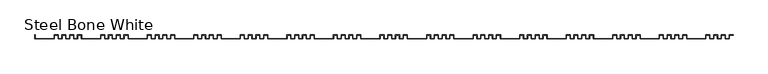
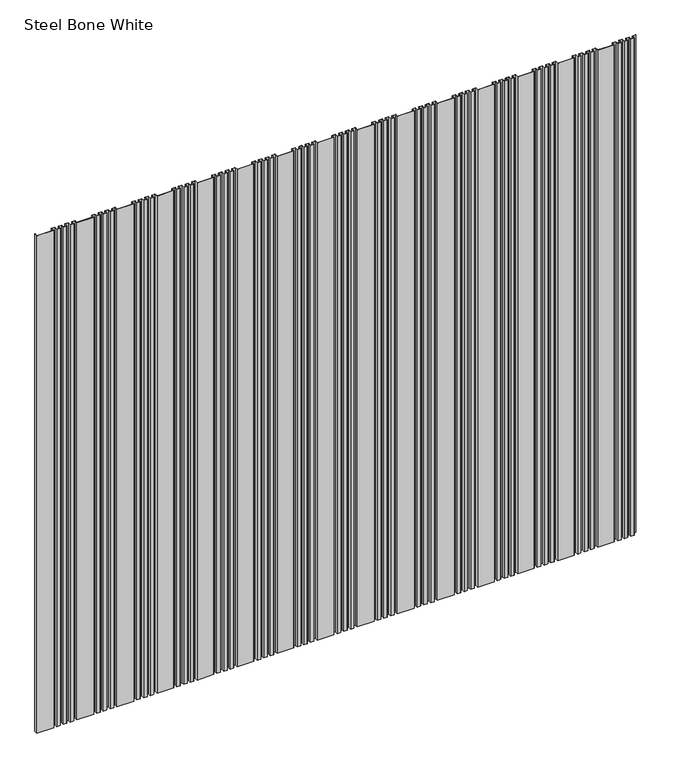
"""IFC4 building model written with IfcOpenShell, lengths in millimetres: proxy geometry, TitanTek VariPanel™ 4 Rib : Steel Bone White."""

from ifc_helpers import new_model, si_unit, origin, origin_with_axes, place, context, project, spatial, polyline, outline, extrude, source, transform, mapped, element, save


def steel_bone_white_7c3ab337(model_context):
    return source(origin(), model_context, "Body", "SweptSolid", [
        extrude(outline(polyline([(4546.6, -0.9921875), (4546.6, -25.4), (4520.2078125, -25.4), (4520.2078125, -0.9921875), (4495.8, -0.9921875), (4495.8, -25.4), (4469.4078125, -25.4), (4469.4078125, -0.9921875), (4445.0, -0.9921875), (4445.0, -25.4), (4418.6078125, -25.4), (4418.6078125, -0.9921875), (4394.2, -0.9921875), (4394.2, -25.4), (4267.2, -25.4), (4267.2, 0.0), (4268.1921875, 0.0), (4268.1921875, -24.4078125), (4393.2078125, -24.4078125), (4393.2078125, 0.0), (4419.6, 0.0), (4419.6, -24.4078125), (4444.0078125, -24.4078125), (4444.0078125, 0.0), (4470.4, 0.0), (4470.4, -24.4078125), (4494.8078125, -24.4078125), (4494.8078125, 0.0), (4521.2, 0.0), (4521.2, -24.4078125), (4545.6078125, -24.4078125), (4545.6078125, 0.0), (4572.0, 0.0), (4572.0, -0.9921875), (4546.6, -0.9921875)])), origin_with_axes(), (0.0, 0.0, 1.0), 4000.0),
        extrude(outline(polyline([(4241.8, -0.9921875), (4241.8, -25.4), (4215.4078125, -25.4), (4215.4078125, -0.9921875), (4191.0, -0.9921875), (4191.0, -25.4), (4164.6078125, -25.4), (4164.6078125, -0.9921875), (4140.2, -0.9921875), (4140.2, -25.4), (4113.8078125, -25.4), (4113.8078125, -0.9921875), (4089.4, -0.9921875), (4089.4, -25.4), (3962.4, -25.4), (3962.4, 0.0), (3963.3921875, 0.0), (3963.3921875, -24.4078125), (4088.4078125, -24.4078125), (4088.4078125, 0.0), (4114.8, 0.0), (4114.8, -24.4078125), (4139.2078125, -24.4078125), (4139.2078125, 0.0), (4165.6, 0.0), (4165.6, -24.4078125), (4190.0078125, -24.4078125), (4190.0078125, 0.0), (4216.4, 0.0), (4216.4, -24.4078125), (4240.8078125, -24.4078125), (4240.8078125, 0.0), (4267.2, 0.0), (4267.2, -0.9921875), (4241.8, -0.9921875)])), origin_with_axes(), (0.0, 0.0, 1.0), 4000.0),
        extrude(outline(polyline([(3937.0, -0.9921875), (3937.0, -25.4), (3910.6078125, -25.4), (3910.6078125, -0.9921875), (3886.2, -0.9921875), (3886.2, -25.4), (3859.8078125, -25.4), (3859.8078125, -0.9921875), (3835.4, -0.9921875), (3835.4, -25.4), (3809.0078125, -25.4), (3809.0078125, -0.9921875), (3784.6, -0.9921875), (3784.6, -25.4), (3657.6, -25.4), (3657.6, 0.0), (3658.5921875, 0.0), (3658.5921875, -24.4078125), (3783.6078125, -24.4078125), (3783.6078125, 0.0), (3810.0, 0.0), (3810.0, -24.4078125), (3834.4078125, -24.4078125), (3834.4078125, 0.0), (3860.8, 0.0), (3860.8, -24.4078125), (3885.2078125, -24.4078125), (3885.2078125, 0.0), (3911.6, 0.0), (3911.6, -24.4078125), (3936.0078125, -24.4078125), (3936.0078125, 0.0), (3962.4, 0.0), (3962.4, -0.9921875), (3937.0, -0.9921875)])), origin_with_axes(), (0.0, 0.0, 1.0), 4000.0),
        extrude(outline(polyline([(3632.2, -0.9921875), (3632.2, -25.4), (3605.8078125, -25.4), (3605.8078125, -0.9921875), (3581.4, -0.9921875), (3581.4, -25.4), (3555.0078125, -25.4), (3555.0078125, -0.9921875), (3530.6, -0.9921875), (3530.6, -25.4), (3504.2078125, -25.4), (3504.2078125, -0.9921875), (3479.8, -0.9921875), (3479.8, -25.4), (3352.8, -25.4), (3352.8, 0.0), (3353.7921875, 0.0), (3353.7921875, -24.4078125), (3478.8078125, -24.4078125), (3478.8078125, 0.0), (3505.2, 0.0), (3505.2, -24.4078125), (3529.6078125, -24.4078125), (3529.6078125, 0.0), (3556.0, 0.0), (3556.0, -24.4078125), (3580.4078125, -24.4078125), (3580.4078125, 0.0), (3606.8, 0.0), (3606.8, -24.4078125), (3631.2078125, -24.4078125), (3631.2078125, 0.0), (3657.6, 0.0), (3657.6, -0.9921875), (3632.2, -0.9921875)])), origin_with_axes(), (0.0, 0.0, 1.0), 4000.0),
        extrude(outline(polyline([(3327.4, -0.9921875), (3327.4, -25.4), (3301.0078125, -25.4), (3301.0078125, -0.9921875), (3276.6, -0.9921875), (3276.6, -25.4), (3250.2078125, -25.4), (3250.2078125, -0.9921875), (3225.8, -0.9921875), (3225.8, -25.4), (3199.4078125, -25.4), (3199.4078125, -0.9921875), (3175.0, -0.9921875), (3175.0, -25.4), (3048.0, -25.4), (3048.0, 0.0), (3048.9921875, 0.0), (3048.9921875, -24.4078125), (3174.0078125, -24.4078125), (3174.0078125, 0.0), (3200.4, 0.0), (3200.4, -24.4078125), (3224.8078125, -24.4078125), (3224.8078125, 0.0), (3251.2, 0.0), (3251.2, -24.4078125), (3275.6078125, -24.4078125), (3275.6078125, 0.0), (3302.0, 0.0), (3302.0, -24.4078125), (3326.4078125, -24.4078125), (3326.4078125, 0.0), (3352.8, 0.0), (3352.8, -0.9921875), (3327.4, -0.9921875)])), origin_with_axes(), (0.0, 0.0, 1.0), 4000.0),
        extrude(outline(polyline([(3022.6, -0.9921875), (3022.6, -25.4), (2996.2078125, -25.4), (2996.2078125, -0.9921875), (2971.8, -0.9921875), (2971.8, -25.4), (2945.4078125, -25.4), (2945.4078125, -0.9921875), (2921.0, -0.9921875), (2921.0, -25.4), (2894.6078125, -25.4), (2894.6078125, -0.9921875), (2870.2, -0.9921875), (2870.2, -25.4), (2743.2, -25.4), (2743.2, 0.0), (2744.1921875, 0.0), (2744.1921875, -24.4078125), (2869.2078125, -24.4078125), (2869.2078125, 0.0), (2895.6, 0.0), (2895.6, -24.4078125), (2920.0078125, -24.4078125), (2920.0078125, 0.0), (2946.4, 0.0), (2946.4, -24.4078125), (2970.8078125, -24.4078125), (2970.8078125, 0.0), (2997.2, 0.0), (2997.2, -24.4078125), (3021.6078125, -24.4078125), (3021.6078125, 0.0), (3048.0, 0.0), (3048.0, -0.9921875), (3022.6, -0.9921875)])), origin_with_axes(), (0.0, 0.0, 1.0), 4000.0),
        extrude(outline(polyline([(2717.8, -0.9921875), (2717.8, -25.4), (2691.4078125, -25.4), (2691.4078125, -0.9921875), (2667.0, -0.9921875), (2667.0, -25.4), (2640.6078125, -25.4), (2640.6078125, -0.9921875), (2616.2, -0.9921875), (2616.2, -25.4), (2589.8078125, -25.4), (2589.8078125, -0.9921875), (2565.4, -0.9921875), (2565.4, -25.4), (2438.4, -25.4), (2438.4, 0.0), (2439.3921875, 0.0), (2439.3921875, -24.4078125), (2564.4078125, -24.4078125), (2564.4078125, 0.0), (2590.8, 0.0), (2590.8, -24.4078125), (2615.2078125, -24.4078125), (2615.2078125, 0.0), (2641.6, 0.0), (2641.6, -24.4078125), (2666.0078125, -24.4078125), (2666.0078125, 0.0), (2692.4, 0.0), (2692.4, -24.4078125), (2716.8078125, -24.4078125), (2716.8078125, 0.0), (2743.2, 0.0), (2743.2, -0.9921875), (2717.8, -0.9921875)])), origin_with_axes(), (0.0, 0.0, 1.0), 4000.0),
        extrude(outline(polyline([(2413.0, -0.9921875), (2413.0, -25.4), (2386.6078125, -25.4), (2386.6078125, -0.9921875), (2362.2, -0.9921875), (2362.2, -25.4), (2335.8078125, -25.4), (2335.8078125, -0.9921875), (2311.4, -0.9921875), (2311.4, -25.4), (2285.0078125, -25.4), (2285.0078125, -0.9921875), (2260.6, -0.9921875), (2260.6, -25.4), (2133.6, -25.4), (2133.6, 0.0), (2134.5921875, 0.0), (2134.5921875, -24.4078125), (2259.6078125, -24.4078125), (2259.6078125, 0.0), (2286.0, 0.0), (2286.0, -24.4078125), (2310.4078125, -24.4078125), (2310.4078125, 0.0), (2336.8, 0.0), (2336.8, -24.4078125), (2361.2078125, -24.4078125), (2361.2078125, 0.0), (2387.6, 0.0), (2387.6, -24.4078125), (2412.0078125, -24.4078125), (2412.0078125, 0.0), (2438.4, 0.0), (2438.4, -0.9921875), (2413.0, -0.9921875)])), origin_with_axes(), (0.0, 0.0, 1.0), 4000.0),
        extrude(outline(polyline([(2108.2, -0.9921875), (2108.2, -25.4), (2081.8078125, -25.4), (2081.8078125, -0.9921875), (2057.4, -0.9921875), (2057.4, -25.4), (2031.0078125, -25.4), (2031.0078125, -0.9921875), (2006.6, -0.9921875), (2006.6, -25.4), (1980.2078125, -25.4), (1980.2078125, -0.9921875), (1955.8, -0.9921875), (1955.8, -25.4), (1828.8, -25.4), (1828.8, 0.0), (1829.7921875, 0.0), (1829.7921875, -24.4078125), (1954.8078125, -24.4078125), (1954.8078125, 0.0), (1981.2, 0.0), (1981.2, -24.4078125), (2005.6078125, -24.4078125), (2005.6078125, 0.0), (2032.0, 0.0), (2032.0, -24.4078125), (2056.4078125, -24.4078125), (2056.4078125, 0.0), (2082.8, 0.0), (2082.8, -24.4078125), (2107.2078125, -24.4078125), (2107.2078125, 0.0), (2133.6, 0.0), (2133.6, -0.9921875), (2108.2, -0.9921875)])), origin_with_axes(), (0.0, 0.0, 1.0), 4000.0),
        extrude(outline(polyline([(1803.4, -0.9921875), (1803.4, -25.4), (1777.0078125, -25.4), (1777.0078125, -0.9921875), (1752.6, -0.9921875), (1752.6, -25.4), (1726.2078125, -25.4), (1726.2078125, -0.9921875), (1701.8, -0.9921875), (1701.8, -25.4), (1675.4078125, -25.4), (1675.4078125, -0.9921875), (1651.0, -0.9921875), (1651.0, -25.4), (1524.0, -25.4), (1524.0, 0.0), (1524.9921875, 0.0), (1524.9921875, -24.4078125), (1650.0078125, -24.4078125), (1650.0078125, 0.0), (1676.4, 0.0), (1676.4, -24.4078125), (1700.8078125, -24.4078125), (1700.8078125, 0.0), (1727.2, 0.0), (1727.2, -24.4078125), (1751.6078125, -24.4078125), (1751.6078125, 0.0), (1778.0, 0.0), (1778.0, -24.4078125), (1802.4078125, -24.4078125), (1802.4078125, 0.0), (1828.8, 0.0), (1828.8, -0.9921875), (1803.4, -0.9921875)])), origin_with_axes(), (0.0, 0.0, 1.0), 4000.0),
        extrude(outline(polyline([(1498.6, -0.9921875), (1498.6, -25.4), (1472.2078125, -25.4), (1472.2078125, -0.9921875), (1447.8, -0.9921875), (1447.8, -25.4), (1421.4078125, -25.4), (1421.4078125, -0.9921875), (1397.0, -0.9921875), (1397.0, -25.4), (1370.6078125, -25.4), (1370.6078125, -0.9921875), (1346.2, -0.9921875), (1346.2, -25.4), (1219.2, -25.4), (1219.2, 0.0), (1220.1921875, 0.0), (1220.1921875, -24.4078125), (1345.2078125, -24.4078125), (1345.2078125, 0.0), (1371.6, 0.0), (1371.6, -24.4078125), (1396.0078125, -24.4078125), (1396.0078125, 0.0), (1422.4, 0.0), (1422.4, -24.4078125), (1446.8078125, -24.4078125), (1446.8078125, 0.0), (1473.2, 0.0), (1473.2, -24.4078125), (1497.6078125, -24.4078125), (1497.6078125, 0.0), (1524.0, 0.0), (1524.0, -0.9921875), (1498.6, -0.9921875)])), origin_with_axes(), (0.0, 0.0, 1.0), 4000.0),
        extrude(outline(polyline([(1193.8, -0.9921875), (1193.8, -25.4), (1167.4078125, -25.4), (1167.4078125, -0.9921875), (1143.0, -0.9921875), (1143.0, -25.4), (1116.6078125, -25.4), (1116.6078125, -0.9921875), (1092.2, -0.9921875), (1092.2, -25.4), (1065.8078125, -25.4), (1065.8078125, -0.9921875), (1041.4, -0.9921875), (1041.4, -25.4), (914.4, -25.4), (914.4, 0.0), (915.3921875, 0.0), (915.3921875, -24.4078125), (1040.4078125, -24.4078125), (1040.4078125, 0.0), (1066.8, 0.0), (1066.8, -24.4078125), (1091.2078125, -24.4078125), (1091.2078125, 0.0), (1117.6, 0.0), (1117.6, -24.4078125), (1142.0078125, -24.4078125), (1142.0078125, 0.0), (1168.4, 0.0), (1168.4, -24.4078125), (1192.8078125, -24.4078125), (1192.8078125, 0.0), (1219.2, 0.0), (1219.2, -0.9921875), (1193.8, -0.9921875)])), origin_with_axes(), (0.0, 0.0, 1.0), 4000.0),
        extrude(outline(polyline([(889.0, -0.9921875), (889.0, -25.4), (862.6078125, -25.4), (862.6078125, -0.9921875), (838.2, -0.9921875), (838.2, -25.4), (811.8078125, -25.4), (811.8078125, -0.9921875), (787.4, -0.9921875), (787.4, -25.4), (761.0078125, -25.4), (761.0078125, -0.9921875), (736.6, -0.9921875), (736.6, -25.4), (609.6, -25.4), (609.6, 0.0), (610.5921875, 0.0), (610.5921875, -24.4078125), (735.6078125, -24.4078125), (735.6078125, 0.0), (762.0, 0.0), (762.0, -24.4078125), (786.4078125, -24.4078125), (786.4078125, 0.0), (812.8, 0.0), (812.8, -24.4078125), (837.2078125, -24.4078125), (837.2078125, 0.0), (863.6, 0.0), (863.6, -24.4078125), (888.0078125, -24.4078125), (888.0078125, 0.0), (914.4, 0.0), (914.4, -0.9921875), (889.0, -0.9921875)])), origin_with_axes(), (0.0, 0.0, 1.0), 4000.0),
        extrude(outline(polyline([(584.2, -0.9921875), (584.2, -25.4), (557.8078125, -25.4), (557.8078125, -0.9921875), (533.4, -0.9921875), (533.4, -25.4), (507.0078125, -25.4), (507.0078125, -0.9921875), (482.6, -0.9921875), (482.6, -25.4), (456.2078125, -25.4), (456.2078125, -0.9921875), (431.8, -0.9921875), (431.8, -25.4), (304.8, -25.4), (304.8, 0.0), (305.7921875, 0.0), (305.7921875, -24.4078125), (430.8078125, -24.4078125), (430.8078125, 0.0), (457.2, 0.0), (457.2, -24.4078125), (481.6078125, -24.4078125), (481.6078125, 0.0), (508.0, 0.0), (508.0, -24.4078125), (532.4078125, -24.4078125), (532.4078125, 0.0), (558.8, 0.0), (558.8, -24.4078125), (583.2078125, -24.4078125), (583.2078125, 0.0), (609.6, 0.0), (609.6, -0.9921875), (584.2, -0.9921875)])), origin_with_axes(), (0.0, 0.0, 1.0), 4000.0),
        extrude(outline(polyline([(279.4, -0.9921875), (279.4, -25.4), (253.0078125, -25.4), (253.0078125, -0.9921875), (228.6, -0.9921875), (228.6, -25.4), (202.2078125, -25.4), (202.2078125, -0.9921875), (177.8, -0.9921875), (177.8, -25.4), (151.4078125, -25.4), (151.4078125, -0.9921875), (127.0, -0.9921875), (127.0, -25.4), (0.0, -25.4), (0.0, 0.0), (0.9921875, 0.0), (0.9921875, -24.4078125), (126.0078125, -24.4078125), (126.0078125, 0.0), (152.4, 0.0), (152.4, -24.4078125), (176.8078125, -24.4078125), (176.8078125, 0.0), (203.2, 0.0), (203.2, -24.4078125), (227.6078125, -24.4078125), (227.6078125, 0.0), (254.0, 0.0), (254.0, -24.4078125), (278.4078125, -24.4078125), (278.4078125, 0.0), (304.8, 0.0), (304.8, -0.9921875), (279.4, -0.9921875)])), origin_with_axes(), (0.0, 0.0, 1.0), 4000.0),
    ])


if __name__ == "__main__":
    model = new_model("IFC4")
    model_context = context("Model", 3, world=origin())
    ifc_project = project(units=[si_unit("LENGTHUNIT", "METRE", prefix="MILLI")], contexts=[model_context])
    site = spatial("IfcSite", under=ifc_project)
    building = spatial("IfcBuilding", under=site)
    placement = place(None, origin())
    steel_bone_white_shape = steel_bone_white_7c3ab337(model_context)
    element("IfcBuildingElementProxy", 1, Name="TitanTek VariPanel™ 4 Rib : Steel Bone White", ObjectType="TitanTek VariPanel™ 4 Rib : Steel Bone White", at=placement, inside=building, context=model_context, shape_type="MappedRepresentation", body=[
        mapped(steel_bone_white_shape, transform((0.0, 0.0, 0.0), x_axis=(1.0, 0.0, 0.0), y_axis=(0.0, 1.0, 0.0), z_axis=(0.0, 0.0, 1.0))),
    ])
    save(model, "model.ifc")
